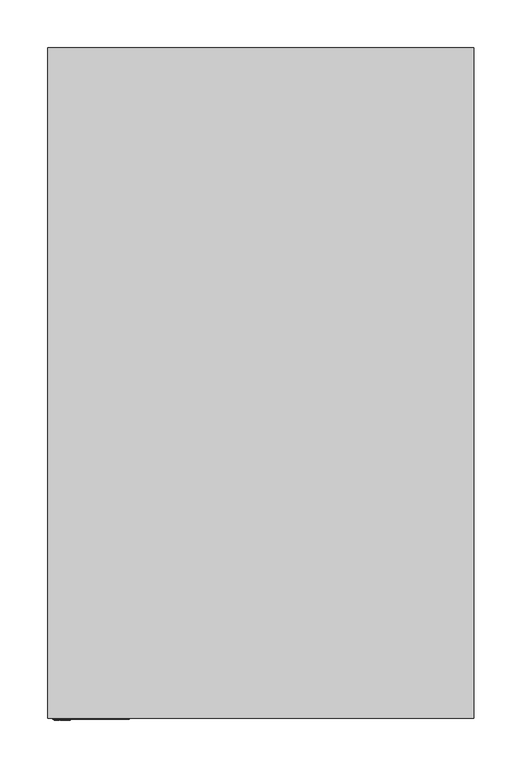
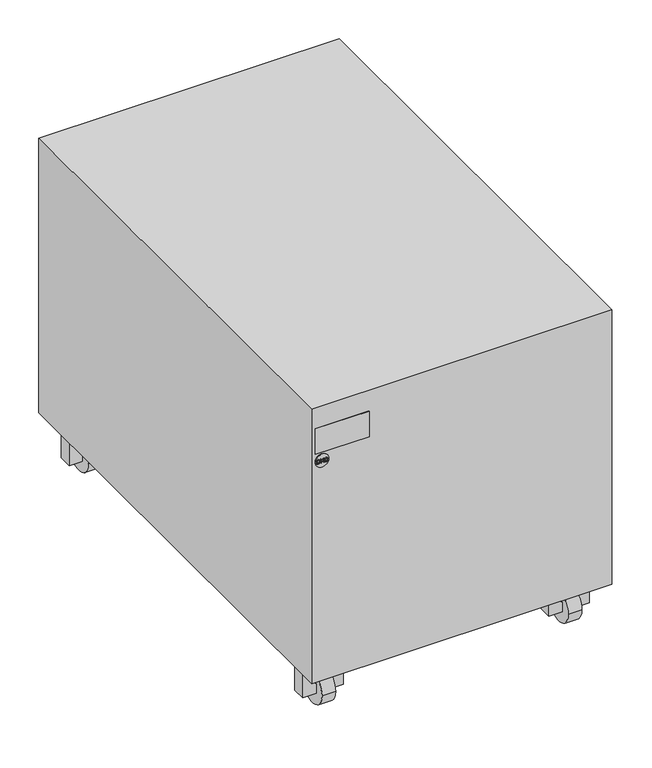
"""IFC4 building model written with IfcOpenShell, lengths in millimetres: proxy geometry, НВО_КНС_ИБПTrioTM_DKC : TRIOTM10A30."""

import ifcopenshell
import ifcopenshell.guid

model = None  # the IFC model being written
_history = None  # IfcOwnerHistory: only IFC2X3 demands one
_inside = {}  # id of a spatial element -> (the spatial element, [elements in it])
_under = {}  # id of a project, library or spatial element -> (it, [spatial elements below it])
_declared = {}  # id of a project -> (the project, [libraries it declares])
_typed = {}  # id of a type object -> (the type object, [elements of that type])
_made_of = {}  # id of a material, layer set ... -> (it, [elements and type objects made of it])


def new_model(schema):
    """Start an empty IFC model of exactly this schema.

    Asked for "IFC4X3", IfcOpenShell would pick the latest addendum, in which some entities
    have other attributes; the version numbers below select the first issue.
    IFC2X3 requires an IfcOwnerHistory on every rooted entity: one is made here for all.
    """
    global model, _history
    if schema == "IFC4X3":
        model = ifcopenshell.file(schema_version=(4, 3, 0, 0))
    else:
        model = ifcopenshell.file(schema=schema)
    _inside.clear()
    _under.clear()
    _declared.clear()
    _typed.clear()
    _made_of.clear()
    _history = None
    if model.schema == "IFC2X3":
        org = make("IfcOrganization", Name="unknown")
        user = make(
            "IfcPersonAndOrganization",
            ThePerson=make("IfcPerson", FamilyName="unknown"),
            TheOrganization=org,
        )
        app = make(
            "IfcApplication",
            ApplicationDeveloper=org,
            Version="unknown",
            ApplicationFullName="unknown",
            ApplicationIdentifier="unknown",
        )
        _history = make(
            "IfcOwnerHistory",
            OwningUser=user,
            OwningApplication=app,
            ChangeAction="ADDED",
            CreationDate=0,
        )
    return model


def make(cls, **values):
    """One entity of the class cls with the attributes given. An attribute that is None is left unset."""
    return model.create_entity(
        cls, **{name: value for name, value in values.items() if value is not None}
    )


def rooted(cls, **values):
    """An entity with a GlobalId (a new one), such as an element, a storey or a relation."""
    return make(cls, GlobalId=ifcopenshell.guid.new(), OwnerHistory=_history, **values)


def si_unit(unit_type, name, prefix=None):
    """IfcSIUnit, for example si_unit("LENGTHUNIT", "METRE", prefix="MILLI")."""
    return make("IfcSIUnit", UnitType=unit_type, Prefix=prefix, Name=name)


def assignment(units):
    """IfcUnitAssignment: the units of a project."""
    return None if units is None else make("IfcUnitAssignment", Units=units)


def point(xyz):
    """IfcCartesianPoint."""
    return None if xyz is None else make("IfcCartesianPoint", Coordinates=xyz)


def direction(xyz):
    """IfcDirection."""
    return None if xyz is None else make("IfcDirection", DirectionRatios=xyz)


def frame(location, z_axis=None, x_axis=None):
    """IfcAxis2Placement3D, a coordinate frame: its origin and axes. An axis left out is left unset."""
    return make(
        "IfcAxis2Placement3D",
        Location=point(location),
        Axis=direction(z_axis),
        RefDirection=direction(x_axis),
    )


def frame_2d(location, x_axis=None):
    """IfcAxis2Placement2D, a coordinate frame in the plane: its origin and x axis."""
    return make(
        "IfcAxis2Placement2D", Location=point(location), RefDirection=direction(x_axis)
    )


def origin():
    """The frame at (0, 0, 0) with its axes left unset."""
    return frame((0.0, 0.0, 0.0))


def place(relative_to, where):
    """IfcLocalPlacement: puts the frame where relative to a parent placement (None: the world)."""
    return make(
        "IfcLocalPlacement", PlacementRelTo=relative_to, RelativePlacement=where
    )


def context(
    kind, dimensions, precision=None, world=None, true_north=None, identifier=None
):
    """IfcGeometricRepresentationContext, for example the 3D "Model" context."""
    return make(
        "IfcGeometricRepresentationContext",
        ContextIdentifier=identifier,
        ContextType=kind,
        CoordinateSpaceDimension=dimensions,
        Precision=precision,
        WorldCoordinateSystem=world,
        TrueNorth=true_north,
    )


def project(units=None, contexts=None):
    """IfcProject with its units and contexts."""
    return rooted(
        "IfcProject",
        Name="project",
        RepresentationContexts=contexts,
        UnitsInContext=assignment(units),
    )


def spatial(cls, under=None, at=None, **own):
    """A site, building, storey or space (cls), placed at a placement, below another one or the project."""
    s = rooted(cls, ObjectPlacement=at, **own)
    if under is not None:
        _under.setdefault(under.id(), (under, []))[1].append(s)
    return s


def polyline(points):
    """IfcPolyline through the points."""
    return make("IfcPolyline", Points=[point(p) for p in points])


def circle_curve(where, radius):
    """IfcCircle in the frame where."""
    return make("IfcCircle", Position=where, Radius=radius)


def trimmed(basis, trim1, trim2, sense, master):
    """IfcTrimmedCurve: the piece of a basis curve between two trims."""
    return make(
        "IfcTrimmedCurve",
        BasisCurve=basis,
        Trim1=trim1,
        Trim2=trim2,
        SenseAgreement=sense,
        MasterRepresentation=master,
    )


def segment(curve, same_sense, transition):
    """IfcCompositeCurveSegment."""
    return make(
        "IfcCompositeCurveSegment",
        Transition=transition,
        SameSense=same_sense,
        ParentCurve=curve,
    )


def composite_curve(segments, self_intersect=None):
    """IfcCompositeCurve: segments joined end to end."""
    return make("IfcCompositeCurve", Segments=segments, SelfIntersect=self_intersect)


def outline(outer, holes=None, kind="AREA"):
    """IfcArbitraryClosedProfileDef: a profile drawn as a closed curve; with holes, ...WithVoids."""
    if holes is None:
        return make("IfcArbitraryClosedProfileDef", ProfileType=kind, OuterCurve=outer)
    return make(
        "IfcArbitraryProfileDefWithVoids",
        ProfileType=kind,
        OuterCurve=outer,
        InnerCurves=holes,
    )


def extrude(swept, where, along, depth):
    """IfcExtrudedAreaSolid: the profile swept, set in the frame where, extruded along a direction by depth."""
    return make(
        "IfcExtrudedAreaSolid",
        SweptArea=swept,
        Position=where,
        ExtrudedDirection=direction(along),
        Depth=depth,
    )


def shape(context_of_items, identifier, shape_type, items):
    """IfcShapeRepresentation: the items that make up one representation, for example the "Body"."""
    return make(
        "IfcShapeRepresentation",
        ContextOfItems=context_of_items,
        RepresentationIdentifier=identifier,
        RepresentationType=shape_type,
        Items=items,
    )


def source(mapping_origin, context_of_items, identifier, shape_type, items):
    """IfcRepresentationMap: a shape defined once, which mapped items show again and again."""
    return make(
        "IfcRepresentationMap",
        MappingOrigin=mapping_origin,
        MappedRepresentation=shape(context_of_items, identifier, shape_type, items),
    )


def transform(
    local_origin,
    x_axis=None,
    y_axis=None,
    z_axis=None,
    scale=None,
    scale2=None,
    scale3=None,
    uniform=True,
):
    """IfcCartesianTransformationOperator3D, or its non-uniform kind. x_axis, y_axis, z_axis: its Axis1, 2, 3."""
    if uniform:
        return make(
            "IfcCartesianTransformationOperator3D",
            Axis1=direction(x_axis),
            Axis2=direction(y_axis),
            LocalOrigin=point(local_origin),
            Scale=scale,
            Axis3=direction(z_axis),
        )
    return make(
        "IfcCartesianTransformationOperator3DnonUniform",
        Axis1=direction(x_axis),
        Axis2=direction(y_axis),
        LocalOrigin=point(local_origin),
        Scale=scale,
        Axis3=direction(z_axis),
        Scale2=scale2,
        Scale3=scale3,
    )


def mapped(mapping_source, mapping_target):
    """IfcMappedItem: shows the shape of a source again, moved by a transform."""
    return make(
        "IfcMappedItem", MappingSource=mapping_source, MappingTarget=mapping_target
    )


def made_of(thing, what):
    """Note that an element or type object is made of a material, layer set ...; save() writes the relation."""
    if what is not None:
        _made_of.setdefault(what.id(), (what, []))[1].append(thing)
    return thing


def element(
    cls,
    number,
    at=None,
    inside=None,
    cuts=None,
    type_object=None,
    material=None,
    context=None,
    identifier="Body",
    shape_type=None,
    held_by="IfcProductDefinitionShape",
    body=None,
    shapes=None,
    **own,
):
    """One element of the class cls, such as IfcWall. Its Tag is "e" and its number.

    at: its placement. inside: the storey or other place that contains it. cuts: it is an
    opening in that element (IfcRelVoidsElement). A single representation is given by context,
    identifier, shape_type and body (its items); several are given by shapes. held_by: the class
    of the entity that holds the representations. save() writes the other relations.
    """
    e = rooted(cls, Tag="e%d" % number, ObjectPlacement=at, **own)
    if body is not None:
        shapes = [shape(context, identifier, shape_type, body)]
    if shapes is not None:
        e.Representation = make(held_by, Representations=shapes)
    if inside is not None:
        _inside.setdefault(inside.id(), (inside, []))[1].append(e)
    if cuts is not None:
        rooted(
            "IfcRelVoidsElement", RelatingBuildingElement=cuts, RelatedOpeningElement=e
        )
    if type_object is not None:
        _typed.setdefault(type_object.id(), (type_object, []))[1].append(e)
    return made_of(e, material)


def aggregate(whole, parts):
    """IfcRelAggregates: a whole, such as a stair, and the parts it consists of."""
    return rooted("IfcRelAggregates", RelatingObject=whole, RelatedObjects=parts)


def save(model, path):
    """Write the relations noted so far, then the file.

    IfcRelAggregates (storeys below a building ...), IfcRelContainedInSpatialStructure (elements
    in a storey), IfcRelDefinesByType, IfcRelAssociatesMaterial and IfcRelDeclares: one each for
    every whole, place, type object, material and project.
    """
    for whole, parts in _under.values():
        aggregate(whole, parts)
    for where, things in _inside.values():
        rooted(
            "IfcRelContainedInSpatialStructure",
            RelatedElements=things,
            RelatingStructure=where,
        )
    for kind, things in _typed.values():
        rooted("IfcRelDefinesByType", RelatedObjects=things, RelatingType=kind)
    for what, things in _made_of.values():
        rooted("IfcRelAssociatesMaterial", RelatedObjects=things, RelatingMaterial=what)
    for by, libraries in _declared.values():
        rooted("IfcRelDeclares", RelatingContext=by, RelatedDefinitions=libraries)
    model.write(path)


def electrical_equipment_870dc941(model_context):
    return source(origin(), model_context, "Body", "SweptSolid", [
        extrude(outline(polyline([(50.3347717, -157.1652283), (35.0, -172.5), (20.0, -172.5), (20.0, -152.5), (70.0, -152.5), (70.0, -157.1652283), (50.3347717, -157.1652283)])), frame((0.0, 640.0, 0.0), z_axis=(0.0, 1.0, 0.0), x_axis=(0.0, 0.0, 1.0)), (0.0, 0.0, 1.0), 20.0),
        extrude(outline(polyline([(50.3347717, -207.8347717), (70.0, -207.8347717), (70.0, -212.5), (20.0, -212.5), (20.0, -192.5), (35.0, -192.5), (50.3347717, -207.8347717)])), frame((0.0, 640.0, 0.0), z_axis=(0.0, 1.0, 0.0), x_axis=(0.0, 0.0, 1.0)), (0.0, 0.0, 1.0), 20.0),
        extrude(outline(composite_curve([segment(trimmed(circle_curve(frame_2d((650.0, 25.0)), 25.0), [point((675.0, 25.0))], [point((625.0, 25.0))], False, "CARTESIAN"), True, "CONTINUOUS"), segment(trimmed(circle_curve(frame_2d((650.0, 25.0)), 25.0), [point((625.0, 25.0))], [point((675.0, 25.0))], False, "CARTESIAN"), True, "CONTINUOUS")], self_intersect=False)), frame((-192.5, 0.0, 0.0), z_axis=(1.0, 0.0, 0.0), x_axis=(0.0, 1.0, 0.0)), (0.0, 0.0, 1.0), 20.0),
        extrude(outline(polyline([(50.3347717, -157.1652283), (35.0, -172.5), (20.0, -172.5), (20.0, -152.5), (70.0, -152.5), (70.0, -157.1652283), (50.3347717, -157.1652283)])), frame((0.0, 40.0, 0.0), z_axis=(0.0, 1.0, 0.0), x_axis=(0.0, 0.0, 1.0)), (0.0, 0.0, 1.0), 20.0),
        extrude(outline(polyline([(50.3347717, -207.8347717), (70.0, -207.8347717), (70.0, -212.5), (20.0, -212.5), (20.0, -192.5), (35.0, -192.5), (50.3347717, -207.8347717)])), frame((0.0, 40.0, 0.0), z_axis=(0.0, 1.0, 0.0), x_axis=(0.0, 0.0, 1.0)), (0.0, 0.0, 1.0), 20.0),
        extrude(outline(composite_curve([segment(trimmed(circle_curve(frame_2d((50.0, 25.0)), 25.0), [point((75.0, 25.0))], [point((25.0, 25.0))], False, "CARTESIAN"), True, "CONTINUOUS"), segment(trimmed(circle_curve(frame_2d((50.0, 25.0)), 25.0), [point((25.0, 25.0))], [point((75.0, 25.0))], False, "CARTESIAN"), True, "CONTINUOUS")], self_intersect=False)), frame((-192.5, 0.0, 0.0), z_axis=(1.0, 0.0, 0.0), x_axis=(0.0, 1.0, 0.0)), (0.0, 0.0, 1.0), 20.0),
        extrude(outline(polyline([(50.3347717, 207.8347717), (35.0, 192.5), (20.0, 192.5), (20.0, 212.5), (70.0, 212.5), (70.0, 207.8347717), (50.3347717, 207.8347717)])), frame((0.0, 640.0, 0.0), z_axis=(0.0, 1.0, 0.0), x_axis=(0.0, 0.0, 1.0)), (0.0, 0.0, 1.0), 20.0),
        extrude(outline(polyline([(50.3347717, 157.1652283), (70.0, 157.1652283), (70.0, 152.5), (20.0, 152.5), (20.0, 172.5), (35.0, 172.5), (50.3347717, 157.1652283)])), frame((0.0, 640.0, 0.0), z_axis=(0.0, 1.0, 0.0), x_axis=(0.0, 0.0, 1.0)), (0.0, 0.0, 1.0), 20.0),
        extrude(outline(composite_curve([segment(trimmed(circle_curve(frame_2d((650.0, 25.0)), 25.0), [point((675.0, 25.0))], [point((625.0, 25.0))], False, "CARTESIAN"), True, "CONTINUOUS"), segment(trimmed(circle_curve(frame_2d((650.0, 25.0)), 25.0), [point((625.0, 25.0))], [point((675.0, 25.0))], False, "CARTESIAN"), True, "CONTINUOUS")], self_intersect=False)), frame((172.5, 0.0, 0.0), z_axis=(1.0, 0.0, 0.0), x_axis=(0.0, 1.0, 0.0)), (0.0, 0.0, 1.0), 20.0),
        extrude(outline(polyline([(50.3347717, 207.8347717), (35.0, 192.5), (20.0, 192.5), (20.0, 212.5), (70.0, 212.5), (70.0, 207.8347717), (50.3347717, 207.8347717)])), frame((0.0, 40.0, 0.0), z_axis=(0.0, 1.0, 0.0), x_axis=(0.0, 0.0, 1.0)), (0.0, 0.0, 1.0), 20.0),
        extrude(outline(polyline([(50.3347717, 157.1652283), (70.0, 157.1652283), (70.0, 152.5), (20.0, 152.5), (20.0, 172.5), (35.0, 172.5), (50.3347717, 157.1652283)])), frame((0.0, 40.0, 0.0), z_axis=(0.0, 1.0, 0.0), x_axis=(0.0, 0.0, 1.0)), (0.0, 0.0, 1.0), 20.0),
        extrude(outline(composite_curve([segment(trimmed(circle_curve(frame_2d((50.0, 25.0)), 25.0), [point((75.0, 25.0))], [point((25.0, 25.0))], False, "CARTESIAN"), True, "CONTINUOUS"), segment(trimmed(circle_curve(frame_2d((50.0, 25.0)), 25.0), [point((25.0, 25.0))], [point((75.0, 25.0))], False, "CARTESIAN"), True, "CONTINUOUS")], self_intersect=False)), frame((172.5, 0.0, 0.0), z_axis=(1.0, 0.0, 0.0), x_axis=(0.0, 1.0, 0.0)), (0.0, 0.0, 1.0), 20.0),
        extrude(outline(polyline([(412.0, -215.6463789), (412.0, -213.467046), (412.103007, -212.4980448), (412.9520786, -211.2273804), (413.829845, -210.8153525), (415.0460629, -210.654956), (416.4793312, -210.891872), (417.5094008, -211.6055631), (417.9405585, -212.4914229), (418.0273786, -213.5671099), (418.0273786, -215.6463789), (412.0, -215.6463789)]), holes=[polyline([(412.7534223, -214.8929566), (417.2739563, -214.8929566), (417.2739563, -213.5803536), (417.153291, -212.5120243), (416.4852173, -211.7299072), (415.0578351, -211.4083783), (413.9181367, -211.5724537), (412.8623154, -212.5900153), (412.7534223, -213.5597522), (412.7534223, -214.8929566)])]), frame((0.0, -2.0, 0.0), z_axis=(0.0, 1.0, 0.0), x_axis=(0.0, 0.0, 1.0)), (0.0, 0.0, 1.0), 6.0),
        extrude(outline(polyline([(412.0, -209.2422891), (414.0719114, -208.865578), (415.0401768, -207.8502237), (412.0, -205.5487539), (412.0, -204.6275774), (415.5493255, -207.316059), (418.0273786, -204.7217552), (418.0273786, -205.7753692), (415.076965, -208.865578), (418.0273786, -209.6190003), (412.0, -209.2422891)])), frame((0.0, -2.0, 0.0), z_axis=(0.0, 1.0, 0.0), x_axis=(0.0, 0.0, 1.0)), (0.0, 0.0, 1.0), 6.0),
        extrude(outline(polyline([(414.1425447, -199.8245101), (413.0330126, -200.463889), (412.6592445, -201.6168311), (412.9336845, -202.6564657), (413.7628905, -203.3642706), (415.0607782, -203.5916217), (416.180611, -203.3995873), (417.0458694, -202.7337209), (417.3681341, -201.555027), (417.0775073, -200.5367296), (416.3307068, -199.1652655), (417.652139, -200.0165445), (418.1215564, -201.5255964), (417.7588248, -202.9735799), (416.6971173, -203.9881985), (415.0593067, -204.345044), (413.4479835, -204.0294013), (412.3016632, -203.1096963), (411.9058222, -201.5417832), (412.4289504, -199.9643052), (414.1425447, -199.8245101)])), frame((0.0, -2.0, 0.0), z_axis=(0.0, 1.0, 0.0), x_axis=(0.0, 0.0, 1.0)), (0.0, 0.0, 1.0), 6.0),
        extrude(outline(composite_curve([segment(trimmed(circle_curve(frame_2d((415.0, -207.5)), 10.0), [point((415.0, -217.5))], [point((415.0, -197.5))], False, "CARTESIAN"), True, "CONTINUOUS"), segment(trimmed(circle_curve(frame_2d((415.0, -207.5)), 10.0), [point((415.0, -197.5))], [point((415.0, -217.5))], False, "CARTESIAN"), True, "CONTINUOUS")], self_intersect=False)), frame((0.0, -1.0, 0.0), z_axis=(0.0, 1.0, 0.0), x_axis=(0.0, 0.0, 1.0)), (0.0, 0.0, 1.0), 10.0),
        extrude(outline(polyline([(222.5, 0.0), (-222.5, 0.0), (-222.5, 700.0), (222.5, 700.0), (222.5, 0.0)])), frame((0.0, 0.0, 70.0), z_axis=(0.0, 0.0, 1.0), x_axis=(1.0, 0.0, 0.0)), (0.0, 0.0, 1.0), 430.0),
        extrude(outline(polyline([(-137.5, -1.0), (-217.5, -1.0), (-217.5, 0.0), (-137.5, 0.0), (-137.5, -1.0)])), frame((0.0, 0.0, 428.0), z_axis=(0.0, 0.0, 1.0), x_axis=(1.0, 0.0, 0.0)), (0.0, 0.0, 1.0), 40.0),
    ])


if __name__ == "__main__":
    model = new_model("IFC4")
    model_context = context("Model", 3, world=origin())
    ifc_project = project(units=[si_unit("LENGTHUNIT", "METRE", prefix="MILLI")], contexts=[model_context])
    site = spatial("IfcSite", under=ifc_project)
    building = spatial("IfcBuilding", under=site)
    placement = place(None, origin())
    electrical_equipment_shape = electrical_equipment_870dc941(model_context)
    element("IfcBuildingElementProxy", 1, Name="НВО_КНС_ИБПTrioTM_DKC : TRIOTM10A30", ObjectType="НВО_КНС_ИБПTrioTM_DKC : TRIOTM10A30", at=placement, inside=building, context=model_context, shape_type="MappedRepresentation", body=[
        mapped(electrical_equipment_shape, transform((0.0, 0.0, 0.0), x_axis=(1.0, 0.0, 0.0), y_axis=(0.0, 1.0, 0.0), z_axis=(0.0, 0.0, 1.0))),
    ])
    save(model, "model.ifc")
